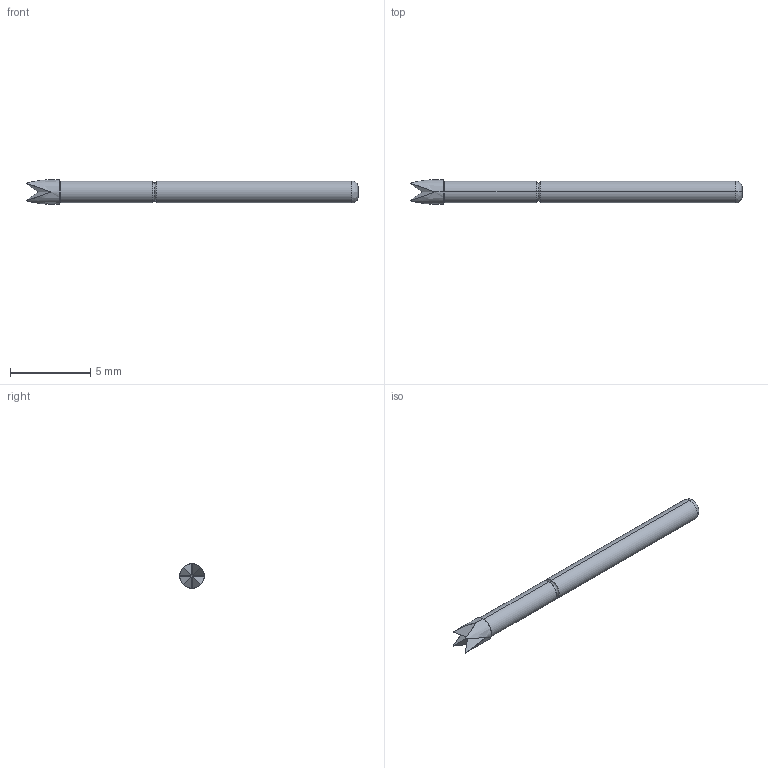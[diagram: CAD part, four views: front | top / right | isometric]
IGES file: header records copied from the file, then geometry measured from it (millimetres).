
Start section: SolidWorks IGES file using analytic representation for surfaces
Global section: file name: O:\PYLON\IGES FILES\P3158\P3158G-1Q1S FULL.IGS; native system: SolidWorks 2015; preprocessor: SolidWorks 2015; author: kgolden; date: 171020.064846; units: inch
Bounding box: 20.7 x 1.52 x 1.52 mm (x, y, z)
Surface area: 99.5 mm2 (no closed solid volume)
Topology: 0 solids, 0 shells, 31 faces, 230 edges, 230 vertices
Faces by surface type: bspline 21, revolution 10
